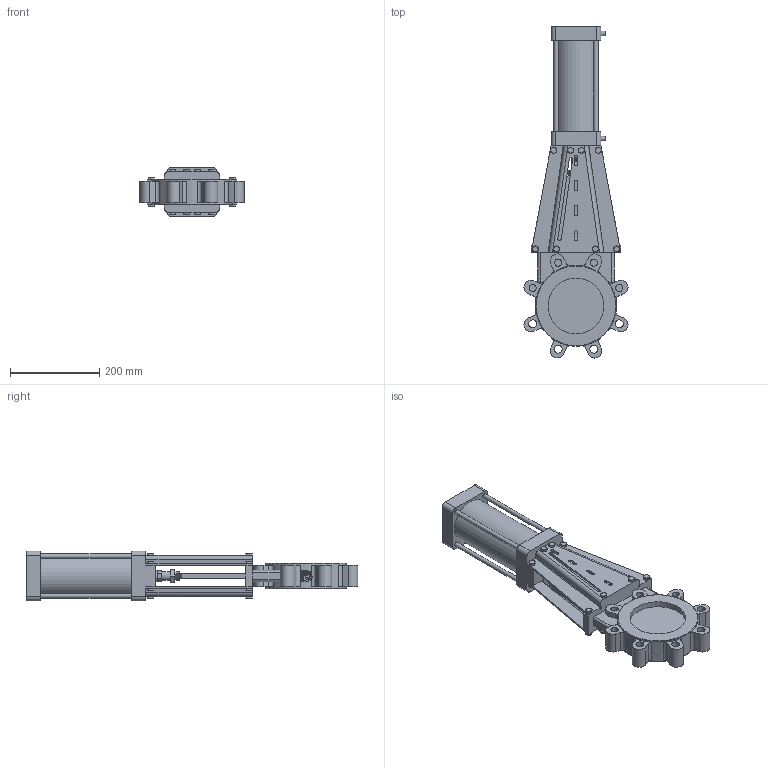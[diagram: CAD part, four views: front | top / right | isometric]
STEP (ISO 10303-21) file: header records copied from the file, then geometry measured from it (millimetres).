
FILE_DESCRIPTION(('STEP AP242'), '1');
FILE_NAME('GVKR1331E-1W-Fb-2P Çàäâèæêà øèáåðíàÿ ñ âûäâèæíûì øòîêîì DN.ru Äó125 Ðó10', '2026-05-25T21:25:45', ('R2D2'), (''), 'C3D Converter', 'C3D Toolkit', '');
FILE_SCHEMA(('AP242_MANAGED_MODEL_BASED_3D_ENGINEERING_MIM_LF { 1 0 10303 442 1 1 4 }'));
Length unit declared in the file: millimetre
Products named in the file (1): GVKR1331M-1W-Fb-2P
Bounding box: 233.38 x 744.69 x 112 mm (x, y, z)
Volume: 4981731.6 mm3; surface area: 548082.7 mm2
Topology: 1 solids, 1 shells, 855 faces, 2178 edges, 1374 vertices
Faces by surface type: plane 479, cylinder 144, extrusion 134, cone 96, torus 2
Full cylindrical faces by diameter (mm): 10 x6, 13 x16, 16 x8, 18 x4, 19.8 x2, 20 x1, 25 x1, 100 x1, 125 x2, 181 x1
Entity records: 45303 total; most frequent: CARTESIAN_POINT 18617, ORIENTED_EDGE 4266, DIRECTION 3661, EDGE_CURVE 2133, VERTEX_POINT 1374, AXIS2_PLACEMENT_3D 1231, VECTOR 1199, LINE 1065
